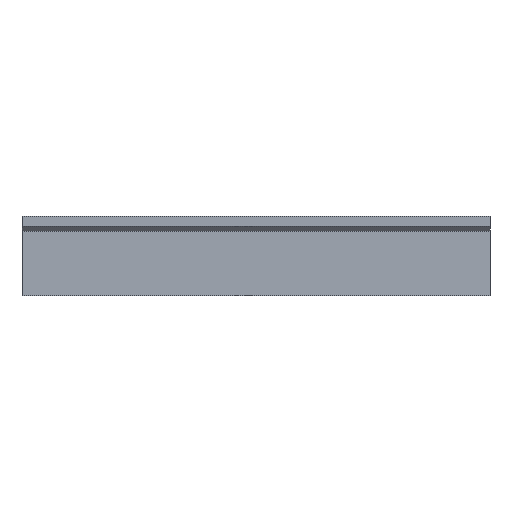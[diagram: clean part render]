
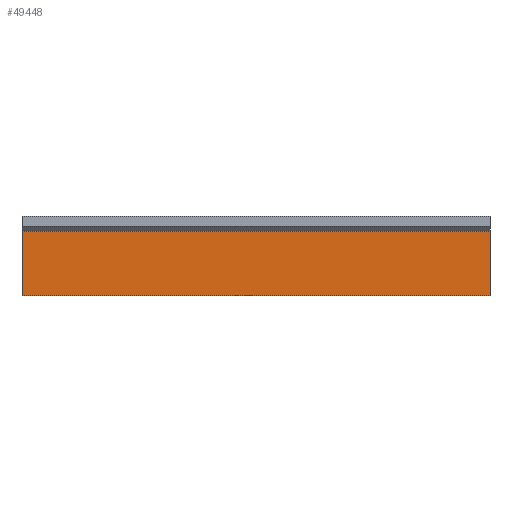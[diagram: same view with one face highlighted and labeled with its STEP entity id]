
A CAD part, left-side view. The second image highlights one B-rep face of the part: STEP entity #49448.
In plain terms, the highlighted planar face has unit normal (-1, 0, 0).
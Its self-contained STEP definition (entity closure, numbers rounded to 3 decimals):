
#32 = PLANE('',#33);
#33 = AXIS2_PLACEMENT_3D('',#34,#35,#36);
#34 = CARTESIAN_POINT('',(-200.,-101.,1.));
#35 = DIRECTION('',(-0.,1.,0.));
#36 = DIRECTION('',(0.,0.,1.));
#823 = PLANE('',#824);
#824 = AXIS2_PLACEMENT_3D('',#825,#826,#827);
#825 = CARTESIAN_POINT('',(0.,0.,0.));
#826 = DIRECTION('',(0.,0.,1.));
#827 = DIRECTION('',(1.,0.,-0.));
#919 = VERTEX_POINT('',#920);
#920 = CARTESIAN_POINT('',(-192.,-101.,0.));
#940 = EDGE_CURVE('',#941,#919,#943,.T.);
#941 = VERTEX_POINT('',#942);
#942 = CARTESIAN_POINT('',(-192.,-101.,27.9));
#943 = SURFACE_CURVE('',#944,(#948,#955),.PCURVE_S1.);
#944 = LINE('',#945,#946);
#945 = CARTESIAN_POINT('',(-192.,-101.,27.9));
#946 = VECTOR('',#947,1.);
#947 = DIRECTION('',(0.,0.,-1.));
#948 = PCURVE('',#32,#949);
#949 = DEFINITIONAL_REPRESENTATION('',(#950),#954);
#950 = LINE('',#951,#952);
#951 = CARTESIAN_POINT('',(26.9,8.));
#952 = VECTOR('',#953,1.);
#953 = DIRECTION('',(-1.,0.));
#954 = ( GEOMETRIC_REPRESENTATION_CONTEXT(2) 
PARAMETRIC_REPRESENTATION_CONTEXT() REPRESENTATION_CONTEXT('2D SPACE',''
  ) );
#955 = PCURVE('',#956,#961);
#956 = PLANE('',#957);
#957 = AXIS2_PLACEMENT_3D('',#958,#959,#960);
#958 = CARTESIAN_POINT('',(-192.,152.,2.));
#959 = DIRECTION('',(1.,0.,-0.));
#960 = DIRECTION('',(0.,-1.,0.));
#961 = DEFINITIONAL_REPRESENTATION('',(#962),#966);
#962 = LINE('',#963,#964);
#963 = CARTESIAN_POINT('',(253.,-25.9));
#964 = VECTOR('',#965,1.);
#965 = DIRECTION('',(0.,1.));
#966 = ( GEOMETRIC_REPRESENTATION_CONTEXT(2) 
PARAMETRIC_REPRESENTATION_CONTEXT() REPRESENTATION_CONTEXT('2D SPACE',''
  ) );
#986 = B_SPLINE_SURFACE_WITH_KNOTS('',1,1,(
    (#987,#988)
    ,(#989,#990
    )),.UNSPECIFIED.,.F.,.F.,.F.,(2,2),(2,2),(0.,330.1),(0.,1.),
  .PIECEWISE_BEZIER_KNOTS.);
#987 = CARTESIAN_POINT('',(-192.,152.,27.9));
#988 = CARTESIAN_POINT('',(-194.1,152.,30.));
#989 = CARTESIAN_POINT('',(-192.,-176.,27.9));
#990 = CARTESIAN_POINT('',(-194.1,-178.1,30.));
#1004 = VERTEX_POINT('',#1005);
#1005 = CARTESIAN_POINT('',(-192.,101.,27.9));
#1025 = PLANE('',#1026);
#1026 = AXIS2_PLACEMENT_3D('',#1027,#1028,#1029);
#1027 = CARTESIAN_POINT('',(-200.,101.,1.));
#1028 = DIRECTION('',(-0.,1.,0.));
#1029 = DIRECTION('',(0.,0.,1.));
#1039 = EDGE_CURVE('',#1004,#941,#1040,.T.);
#1040 = SURFACE_CURVE('',#1041,(#1045,#1051),.PCURVE_S1.);
#1041 = LINE('',#1042,#1043);
#1042 = CARTESIAN_POINT('',(-192.,152.,27.9));
#1043 = VECTOR('',#1044,1.);
#1044 = DIRECTION('',(0.,-1.,0.));
#1045 = PCURVE('',#986,#1046);
#1046 = DEFINITIONAL_REPRESENTATION('',(#1047),#1050);
#1047 = B_SPLINE_CURVE_WITH_KNOTS('',1,(#1048,#1049),.UNSPECIFIED.,.F.,
  .F.,(2,2),(0.,328.),.PIECEWISE_BEZIER_KNOTS.);
#1048 = CARTESIAN_POINT('',(0.,0.));
#1049 = CARTESIAN_POINT('',(330.1,0.));
#1050 = ( GEOMETRIC_REPRESENTATION_CONTEXT(2) 
PARAMETRIC_REPRESENTATION_CONTEXT() REPRESENTATION_CONTEXT('2D SPACE',''
  ) );
#1051 = PCURVE('',#956,#1052);
#1052 = DEFINITIONAL_REPRESENTATION('',(#1053),#1057);
#1053 = LINE('',#1054,#1055);
#1054 = CARTESIAN_POINT('',(0.,-25.9));
#1055 = VECTOR('',#1056,1.);
#1056 = DIRECTION('',(1.,0.));
#1057 = ( GEOMETRIC_REPRESENTATION_CONTEXT(2) 
PARAMETRIC_REPRESENTATION_CONTEXT() REPRESENTATION_CONTEXT('2D SPACE',''
  ) );
#1929 = VERTEX_POINT('',#1930);
#1930 = CARTESIAN_POINT('',(-192.,101.,0.));
#1950 = EDGE_CURVE('',#1004,#1929,#1951,.T.);
#1951 = SURFACE_CURVE('',#1952,(#1956,#1963),.PCURVE_S1.);
#1952 = LINE('',#1953,#1954);
#1953 = CARTESIAN_POINT('',(-192.,101.,27.9));
#1954 = VECTOR('',#1955,1.);
#1955 = DIRECTION('',(0.,0.,-1.));
#1956 = PCURVE('',#1025,#1957);
#1957 = DEFINITIONAL_REPRESENTATION('',(#1958),#1962);
#1958 = LINE('',#1959,#1960);
#1959 = CARTESIAN_POINT('',(26.9,8.));
#1960 = VECTOR('',#1961,1.);
#1961 = DIRECTION('',(-1.,0.));
#1962 = ( GEOMETRIC_REPRESENTATION_CONTEXT(2) 
PARAMETRIC_REPRESENTATION_CONTEXT() REPRESENTATION_CONTEXT('2D SPACE',''
  ) );
#1963 = PCURVE('',#956,#1964);
#1964 = DEFINITIONAL_REPRESENTATION('',(#1965),#1969);
#1965 = LINE('',#1966,#1967);
#1966 = CARTESIAN_POINT('',(51.,-25.9));
#1967 = VECTOR('',#1968,1.);
#1968 = DIRECTION('',(0.,1.));
#1969 = ( GEOMETRIC_REPRESENTATION_CONTEXT(2) 
PARAMETRIC_REPRESENTATION_CONTEXT() REPRESENTATION_CONTEXT('2D SPACE',''
  ) );
#49448 = ADVANCED_FACE('',(#49449),#956,.F.);
#49449 = FACE_BOUND('',#49450,.F.);
#49450 = EDGE_LOOP('',(#49451,#49452,#49472,#49473));
#49451 = ORIENTED_EDGE('',*,*,#940,.T.);
#49452 = ORIENTED_EDGE('',*,*,#49453,.F.);
#49453 = EDGE_CURVE('',#1929,#919,#49454,.T.);
#49454 = SURFACE_CURVE('',#49455,(#49459,#49466),.PCURVE_S1.);
#49455 = LINE('',#49456,#49457);
#49456 = CARTESIAN_POINT('',(-192.,76.,0.));
#49457 = VECTOR('',#49458,1.);
#49458 = DIRECTION('',(0.,-1.,0.));
#49459 = PCURVE('',#956,#49460);
#49460 = DEFINITIONAL_REPRESENTATION('',(#49461),#49465);
#49461 = LINE('',#49462,#49463);
#49462 = CARTESIAN_POINT('',(76.,2.));
#49463 = VECTOR('',#49464,1.);
#49464 = DIRECTION('',(1.,0.));
#49465 = ( GEOMETRIC_REPRESENTATION_CONTEXT(2) 
PARAMETRIC_REPRESENTATION_CONTEXT() REPRESENTATION_CONTEXT('2D SPACE',''
  ) );
#49466 = PCURVE('',#823,#49467);
#49467 = DEFINITIONAL_REPRESENTATION('',(#49468),#49471);
#49468 = B_SPLINE_CURVE_WITH_KNOTS('',1,(#49469,#49470),.UNSPECIFIED.,
  .F.,.F.,(2,2),(-25.,177.),.PIECEWISE_BEZIER_KNOTS.);
#49469 = CARTESIAN_POINT('',(-192.,101.));
#49470 = CARTESIAN_POINT('',(-192.,-101.));
#49471 = ( GEOMETRIC_REPRESENTATION_CONTEXT(2) 
PARAMETRIC_REPRESENTATION_CONTEXT() REPRESENTATION_CONTEXT('2D SPACE',''
  ) );
#49472 = ORIENTED_EDGE('',*,*,#1950,.F.);
#49473 = ORIENTED_EDGE('',*,*,#1039,.T.);
